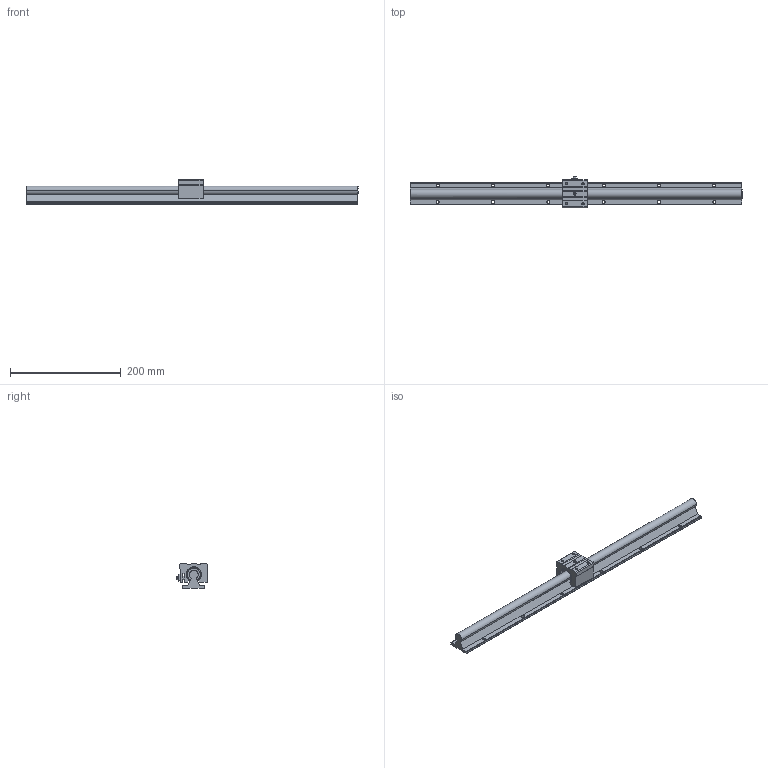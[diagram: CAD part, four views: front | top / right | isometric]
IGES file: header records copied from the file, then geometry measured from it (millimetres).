
Global section: file name: No Iges File Name specified; native system: AutoDesk Inventor R10; preprocessor: AutoDesk Inventor Iges Exporter R10; author: No Author specified; organization: No Organization specified; date: 20101221.093502; units: millimetre
Bounding box: 600 x 56.5 x 45 mm (x, y, z)
Surface area: 101224.9 mm2 (no closed solid volume)
Topology: 0 solids, 0 shells, 280 faces, 1814 edges, 1790 vertices
Faces by surface type: bspline 280
